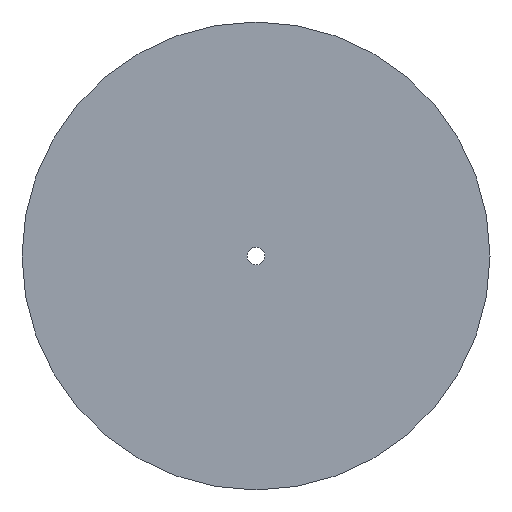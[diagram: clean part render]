
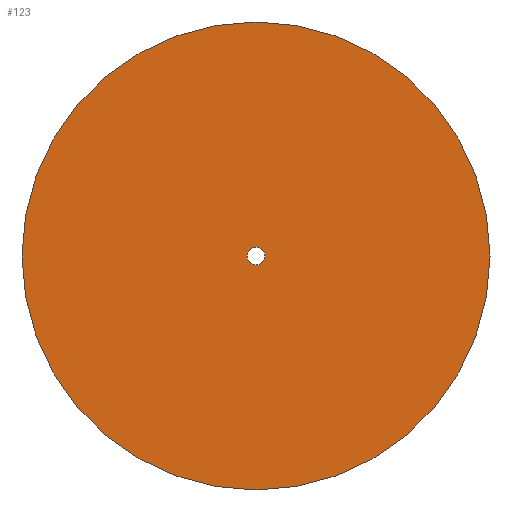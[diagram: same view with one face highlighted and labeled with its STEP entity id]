
A CAD part, top view. The second image highlights one B-rep face of the part: STEP entity #123.
In plain terms, the highlighted planar face has unit normal (0, 0, 1).
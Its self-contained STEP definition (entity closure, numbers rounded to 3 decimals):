
#62=CARTESIAN_POINT('Vertex',(-2.852,1.558,0.)) ;
#76=CARTESIAN_POINT('Vertex',(2.852,-1.558,0.)) ;
#79=CARTESIAN_POINT('Axis2P3D Location',(0.,0.,0.)) ;
#91=CARTESIAN_POINT('Axis2P3D Location',(0.,0.,0.)) ;
#96=CARTESIAN_POINT('Axis2P3D Location',(0.,0.,0.)) ;
#100=CARTESIAN_POINT('Vertex',(85.,0.,0.)) ;
#102=CARTESIAN_POINT('Vertex',(-85.,0.,0.)) ;
#105=CARTESIAN_POINT('Axis2P3D Location',(0.,0.,0.)) ;
#114=CARTESIAN_POINT('Axis2P3D Location',(0.,0.,0.)) ;
#80=DIRECTION('Axis2P3D Direction',(0.,-0.,-1.)) ;
#92=DIRECTION('Axis2P3D Direction',(0.,0.,1.)) ;
#93=DIRECTION('Axis2P3D XDirection',(1.,0.,0.)) ;
#97=DIRECTION('Axis2P3D Direction',(0.,0.,1.)) ;
#106=DIRECTION('Axis2P3D Direction',(0.,0.,1.)) ;
#115=DIRECTION('Axis2P3D Direction',(0.,0.,1.)) ;
#81=AXIS2_PLACEMENT_3D('Circle Axis2P3D',#79,#80,$) ;
#94=AXIS2_PLACEMENT_3D('Plane Axis2P3D',#91,#92,#93) ;
#98=AXIS2_PLACEMENT_3D('Circle Axis2P3D',#96,#97,$) ;
#107=AXIS2_PLACEMENT_3D('Circle Axis2P3D',#105,#106,$) ;
#116=AXIS2_PLACEMENT_3D('Circle Axis2P3D',#114,#115,$) ;
#111=ORIENTED_EDGE('',*,*,#104,.F.) ;
#112=ORIENTED_EDGE('',*,*,#109,.F.) ;
#120=ORIENTED_EDGE('',*,*,#118,.F.) ;
#121=ORIENTED_EDGE('',*,*,#83,.F.) ;
#122=FACE_BOUND('',#119,.T.) ;
#123=ADVANCED_FACE('PartBody',(#113,#122),#95,.T.) ;
#82=CIRCLE('generated circle',#81,3.25) ;
#99=CIRCLE('generated circle',#98,85.) ;
#108=CIRCLE('generated circle',#107,85.) ;
#117=CIRCLE('generated circle',#116,3.25) ;
#83=EDGE_CURVE('',#77,#63,#82,.F.) ;
#104=EDGE_CURVE('',#101,#103,#99,.F.) ;
#109=EDGE_CURVE('',#103,#101,#108,.F.) ;
#118=EDGE_CURVE('',#63,#77,#117,.T.) ;
#110=EDGE_LOOP('',(#111,#112)) ;
#119=EDGE_LOOP('',(#120,#121)) ;
#113=FACE_OUTER_BOUND('',#110,.T.) ;
#95=PLANE('',#94) ;
#63=VERTEX_POINT('',#62) ;
#77=VERTEX_POINT('',#76) ;
#101=VERTEX_POINT('',#100) ;
#103=VERTEX_POINT('',#102) ;
